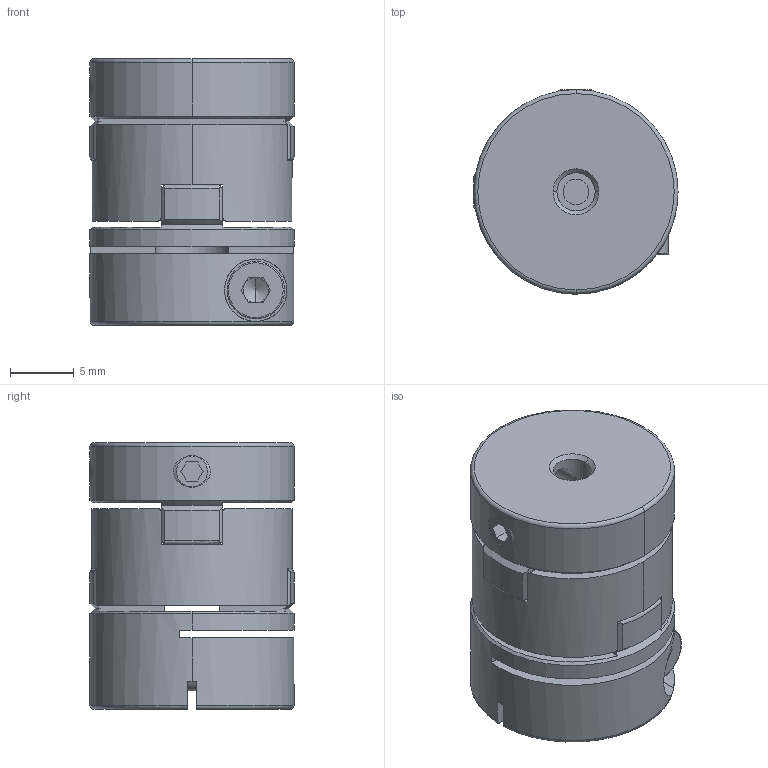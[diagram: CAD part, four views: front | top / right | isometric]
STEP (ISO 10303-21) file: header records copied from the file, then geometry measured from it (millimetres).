
FILE_DESCRIPTION (( 'STEP AP203' ), '1' );
FILE_NAME ('SOH-16SC-3X6_203.STEP', '2013-01-23T07:03:37', ( '' ), ( '' ), 'SwSTEP 2.0', 'SolidWorks 2012', '' );
FILE_SCHEMA (( 'CONFIG_CONTROL_DESIGN' ));
Length unit declared in the file: millimetre
Products named in the file (1): SOH-16SC-3X6_203
Bounding box: 16 x 16 x 20.9 mm (x, y, z)
Volume: 3413.6 mm3; surface area: 2821.5 mm2
Topology: 1 solids, 1 shells, 186 faces, 520 edges, 326 vertices
Faces by surface type: plane 84, cylinder 58, cone 22, torus 18, sphere 4
Entity records: 6455 total; most frequent: CARTESIAN_POINT 1627, ORIENTED_EDGE 1036, DIRECTION 967, EDGE_CURVE 518, AXIS2_PLACEMENT_3D 356, VERTEX_POINT 326, LINE 255, VECTOR 255
